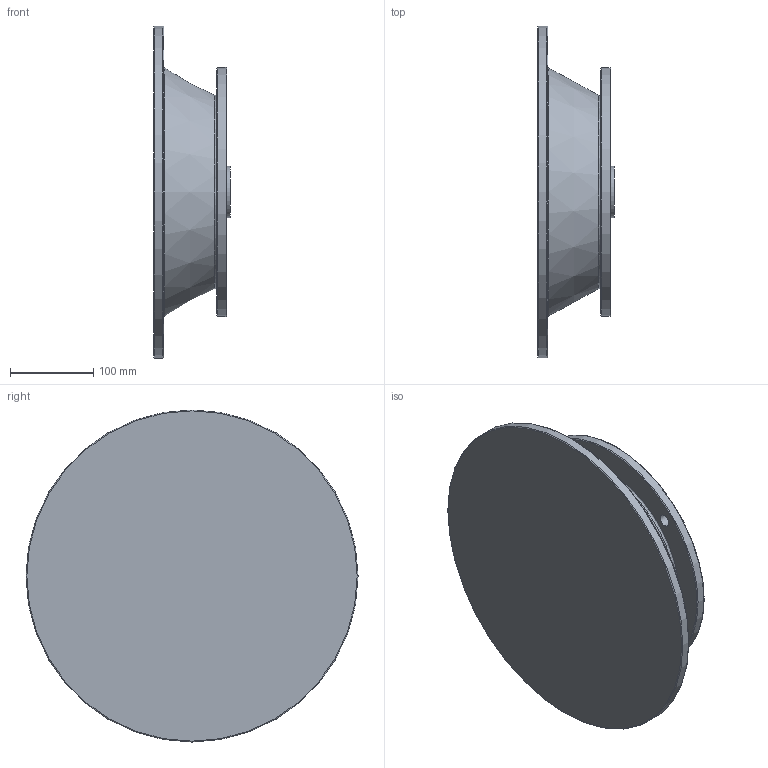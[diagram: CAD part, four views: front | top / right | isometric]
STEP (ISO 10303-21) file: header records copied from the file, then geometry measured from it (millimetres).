
FILE_DESCRIPTION((''),'2;1');
FILE_NAME('D:\PAWEŁ\ZLECENIA\2011 DualSystem\Przekładnie DR\DR130\STEP\132_B5_L88.stp','2012-06-11T12:41:26',('admin'),(''),'Autodesk Inventor 2009','Autodesk Inventor 2009','');
FILE_SCHEMA(('AUTOMOTIVE_DESIGN { 1 0 10303 214 1 1 1 1 }'));
Length unit declared in the file: millimetre
Products named in the file (1): 132_B5_L88
Bounding box: 92 x 400 x 400 mm (x, y, z)
Volume: 2400465.3 mm3; surface area: 483469.6 mm2
Topology: 1 solids, 1 shells, 30 faces, 58 edges, 36 vertices
Faces by surface type: plane 11, cylinder 6, bspline 6, torus 5, cone 2
Full cylindrical faces by diameter (mm): 62 x1, 216.323 x1, 230 x1, 300 x1, 400 x1
Entity records: 895 total; most frequent: CARTESIAN_POINT 281, DIRECTION 120, ORIENTED_EDGE 80, EDGE_LOOP 62, AXIS2_PLACEMENT_3D 55, EDGE_CURVE 40, VERTEX_POINT 36, FACE_BOUND 32
